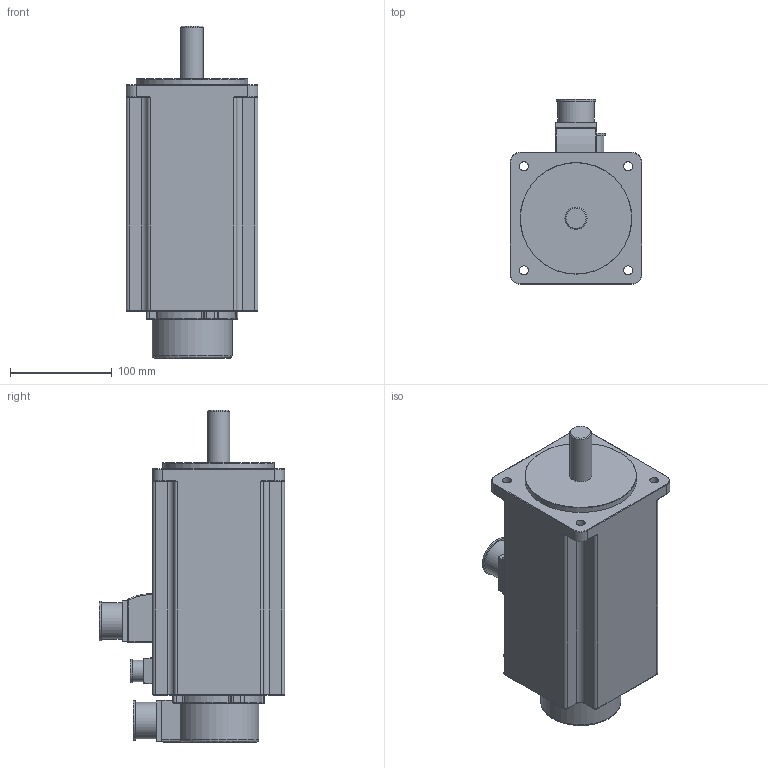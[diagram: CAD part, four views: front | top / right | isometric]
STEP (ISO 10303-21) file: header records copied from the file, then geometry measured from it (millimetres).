
FILE_DESCRIPTION(/* description */ (''),/* implementation_level */ '2;1');
FILE_NAME(/* name */ '130MSL14320- FZ.stp',/* time_stamp */ '2019-11-22T13:47:08+08:00',/* author */ (''),/* organization */ (''),/* preprocessor_version */ 'ST-DEVELOPER v16',/* originating_system */ 'SIEMENS PLM Software NX 10.0',/* authorisation */ '');
FILE_SCHEMA (('CONFIG_CONTROL_DESIGN'));
Length unit declared in the file: millimetre
Products named in the file (1): 130MSL14320- FZ
Bounding box: 130 x 182.5 x 327 mm (x, y, z)
Volume: 3860400.8 mm3; surface area: 179262.6 mm2
Topology: 1 solids, 1 shells, 283 faces, 663 edges, 375 vertices
Faces by surface type: cylinder 131, plane 67, torus 55, sphere 16, bspline 12, cone 2
Full cylindrical faces by diameter (mm): 9 x4, 21 x1, 22 x1, 23 x1, 36 x2, 39 x2, 110 x1
Entity records: 8052 total; most frequent: CARTESIAN_POINT 1557, DIRECTION 1477, ORIENTED_EDGE 1250, EDGE_CURVE 625, AXIS2_PLACEMENT_3D 602, VERTEX_POINT 369, CIRCLE 320, EDGE_LOOP 316
